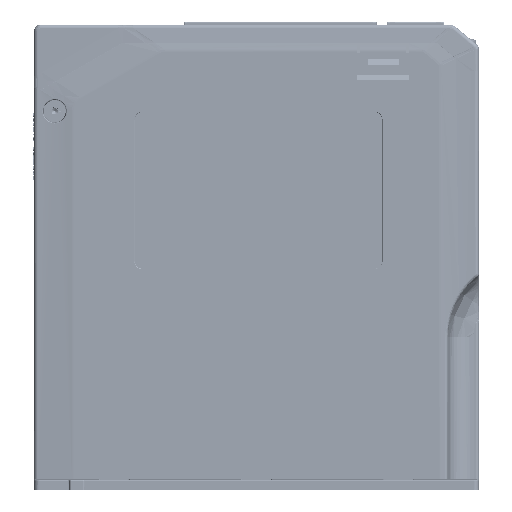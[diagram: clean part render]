
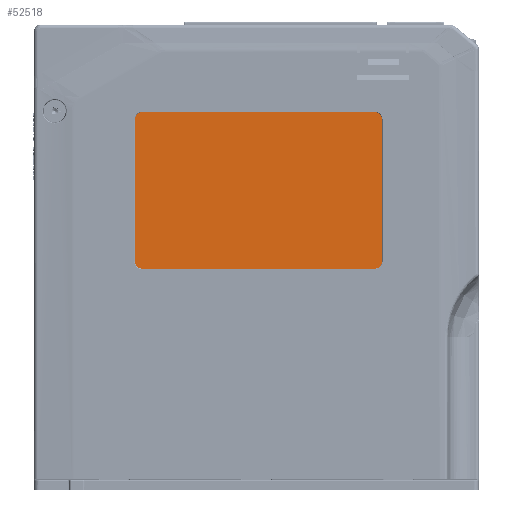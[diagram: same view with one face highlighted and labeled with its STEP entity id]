
A CAD part, left-side view. The second image highlights one B-rep face of the part: STEP entity #52518.
In plain terms, the highlighted planar face has unit normal (-1, 0, 0).
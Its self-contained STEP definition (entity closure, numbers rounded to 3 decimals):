
#1155 = DIRECTION ( 'NONE',  ( 0., -1., 0. ) ) ;
#4316 = EDGE_CURVE ( 'NONE', #493521, #374444, #315704, .T. ) ;
#11899 = AXIS2_PLACEMENT_3D ( 'NONE', #366159, #538988, #144645 ) ;
#23003 = EDGE_CURVE ( 'NONE', #530529, #264843, #384178, .T. ) ;
#38380 = CARTESIAN_POINT ( 'NONE',  ( -20.754, -168.822, -36.85 ) ) ;
#52518 = ADVANCED_FACE ( 'NONE', ( #363326 ), #179324, .T. ) ;
#58773 = ORIENTED_EDGE ( 'NONE', *, *, #506379, .T. ) ;
#63577 = ORIENTED_EDGE ( 'NONE', *, *, #416354, .T. ) ;
#72654 = CARTESIAN_POINT ( 'NONE',  ( -20.754, -168.822, -91.45 ) ) ;
#74507 = CARTESIAN_POINT ( 'NONE',  ( -20.754, -76.222, -94.45 ) ) ;
#89504 = VECTOR ( 'NONE', #466330, 1000. ) ;
#93802 = ORIENTED_EDGE ( 'NONE', *, *, #507885, .T. ) ;
#106420 = CARTESIAN_POINT ( 'NONE',  ( -20.754, -168.822, -36.85 ) ) ;
#109611 = VECTOR ( 'NONE', #303483, 1000. ) ;
#113006 = DIRECTION ( 'NONE',  ( -1., 0., 0. ) ) ;
#115744 = CARTESIAN_POINT ( 'NONE',  ( -20.754, -76.222, -33.85 ) ) ;
#120232 = DIRECTION ( 'NONE',  ( 0., -1., 0. ) ) ;
#121933 = LINE ( 'NONE', #38380, #198003 ) ;
#130050 = EDGE_CURVE ( 'NONE', #251329, #543827, #121933, .T. ) ;
#135165 = CARTESIAN_POINT ( 'NONE',  ( -20.754, -165.822, -33.85 ) ) ;
#144622 = VECTOR ( 'NONE', #385284, 1000. ) ;
#144645 = DIRECTION ( 'NONE',  ( 0., -1., 0. ) ) ;
#145363 = ORIENTED_EDGE ( 'NONE', *, *, #279623, .T. ) ;
#153874 = CIRCLE ( 'NONE', #540087, 3. ) ;
#165528 = CARTESIAN_POINT ( 'NONE',  ( -20.754, -76.222, -33.85 ) ) ;
#166285 = VERTEX_POINT ( 'NONE', #175637 ) ;
#175637 = CARTESIAN_POINT ( 'NONE',  ( -20.754, -73.222, -36.85 ) ) ;
#176813 = DIRECTION ( 'NONE',  ( -1., 0., 0. ) ) ;
#179324 = PLANE ( 'NONE',  #11899 ) ;
#181708 = DIRECTION ( 'NONE',  ( -1., 0., 0. ) ) ;
#198003 = VECTOR ( 'NONE', #211133, 1000. ) ;
#211133 = DIRECTION ( 'NONE',  ( 0., 0., 1. ) ) ;
#236127 = VERTEX_POINT ( 'NONE', #249013 ) ;
#239088 = ORIENTED_EDGE ( 'NONE', *, *, #4316, .T. ) ;
#249013 = CARTESIAN_POINT ( 'NONE',  ( -20.754, -165.822, -94.45 ) ) ;
#249923 = ORIENTED_EDGE ( 'NONE', *, *, #130050, .T. ) ;
#251329 = VERTEX_POINT ( 'NONE', #72654 ) ;
#252681 = AXIS2_PLACEMENT_3D ( 'NONE', #559017, #113006, #288505 ) ;
#254292 = CIRCLE ( 'NONE', #548123, 3. ) ;
#262125 = CIRCLE ( 'NONE', #252681, 3. ) ;
#264843 = VERTEX_POINT ( 'NONE', #115744 ) ;
#273585 = CARTESIAN_POINT ( 'NONE',  ( -20.754, -76.222, -94.45 ) ) ;
#279623 = EDGE_CURVE ( 'NONE', #166285, #493521, #379828, .T. ) ;
#288505 = DIRECTION ( 'NONE',  ( 0., -1., 0. ) ) ;
#295743 = DIRECTION ( 'NONE',  ( -1., 0., 0. ) ) ;
#303483 = DIRECTION ( 'NONE',  ( 0., 1., 0. ) ) ;
#315704 = CIRCLE ( 'NONE', #416808, 3. ) ;
#331303 = CARTESIAN_POINT ( 'NONE',  ( -20.754, -73.222, -91.45 ) ) ;
#332852 = EDGE_LOOP ( 'NONE', ( #58773, #145363, #239088, #429212, #63577, #249923, #93802, #424379 ) ) ;
#336654 = CARTESIAN_POINT ( 'NONE',  ( -20.754, -73.222, -36.85 ) ) ;
#344636 = CARTESIAN_POINT ( 'NONE',  ( -20.754, -165.822, -36.85 ) ) ;
#357258 = DIRECTION ( 'NONE',  ( 0., 0., 1. ) ) ;
#363326 = FACE_OUTER_BOUND ( 'NONE', #332852, .T. ) ;
#366159 = CARTESIAN_POINT ( 'NONE',  ( -20.754, -76.222, -91.45 ) ) ;
#374444 = VERTEX_POINT ( 'NONE', #273585 ) ;
#375610 = EDGE_CURVE ( 'NONE', #374444, #236127, #558045, .T. ) ;
#379828 = LINE ( 'NONE', #336654, #89504 ) ;
#384178 = LINE ( 'NONE', #165528, #109611 ) ;
#385284 = DIRECTION ( 'NONE',  ( 0., -1., 0. ) ) ;
#406868 = CARTESIAN_POINT ( 'NONE',  ( -20.754, -165.822, -91.45 ) ) ;
#416354 = EDGE_CURVE ( 'NONE', #236127, #251329, #153874, .T. ) ;
#416808 = AXIS2_PLACEMENT_3D ( 'NONE', #443722, #181708, #357258 ) ;
#424379 = ORIENTED_EDGE ( 'NONE', *, *, #23003, .T. ) ;
#429212 = ORIENTED_EDGE ( 'NONE', *, *, #375610, .T. ) ;
#443722 = CARTESIAN_POINT ( 'NONE',  ( -20.754, -76.222, -91.45 ) ) ;
#466330 = DIRECTION ( 'NONE',  ( 0., 0., -1. ) ) ;
#493521 = VERTEX_POINT ( 'NONE', #331303 ) ;
#506379 = EDGE_CURVE ( 'NONE', #264843, #166285, #262125, .T. ) ;
#507885 = EDGE_CURVE ( 'NONE', #543827, #530529, #254292, .T. ) ;
#530529 = VERTEX_POINT ( 'NONE', #135165 ) ;
#538988 = DIRECTION ( 'NONE',  ( -1., 0., 0. ) ) ;
#540087 = AXIS2_PLACEMENT_3D ( 'NONE', #406868, #176813, #1155 ) ;
#543827 = VERTEX_POINT ( 'NONE', #106420 ) ;
#548123 = AXIS2_PLACEMENT_3D ( 'NONE', #344636, #295743, #120232 ) ;
#558045 = LINE ( 'NONE', #74507, #144622 ) ;
#559017 = CARTESIAN_POINT ( 'NONE',  ( -20.754, -76.222, -36.85 ) ) ;
